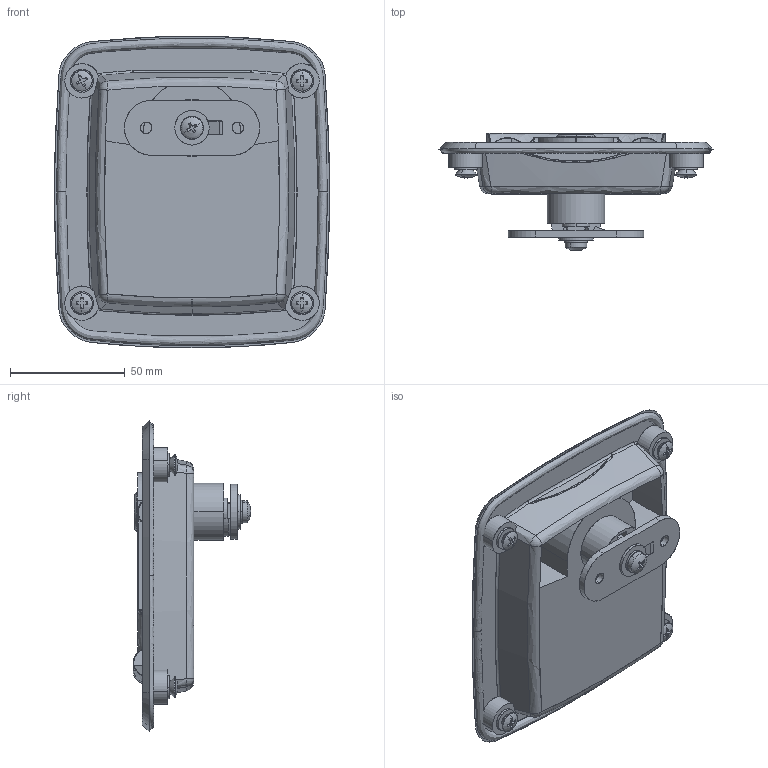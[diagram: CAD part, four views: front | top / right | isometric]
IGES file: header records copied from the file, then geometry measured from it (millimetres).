
Start section: SolidWorks IGES file using analytic representation for surfaces
Global section: file name: D:\尚坤工业图纸\SK1--门锁系列\SK1-831\SK1-831.IGS; native system: SolidWorks 2015; preprocessor: SolidWorks 2015; author: admin; date: 181101.112318; units: millimetre
Bounding box: 120 x 51.36 x 136 mm (x, y, z)
Surface area: 75724.6 mm2 (no closed solid volume)
Topology: 0 solids, 0 shells, 757 faces, 9209 edges, 9171 vertices
Faces by surface type: bspline 400, revolution 357
